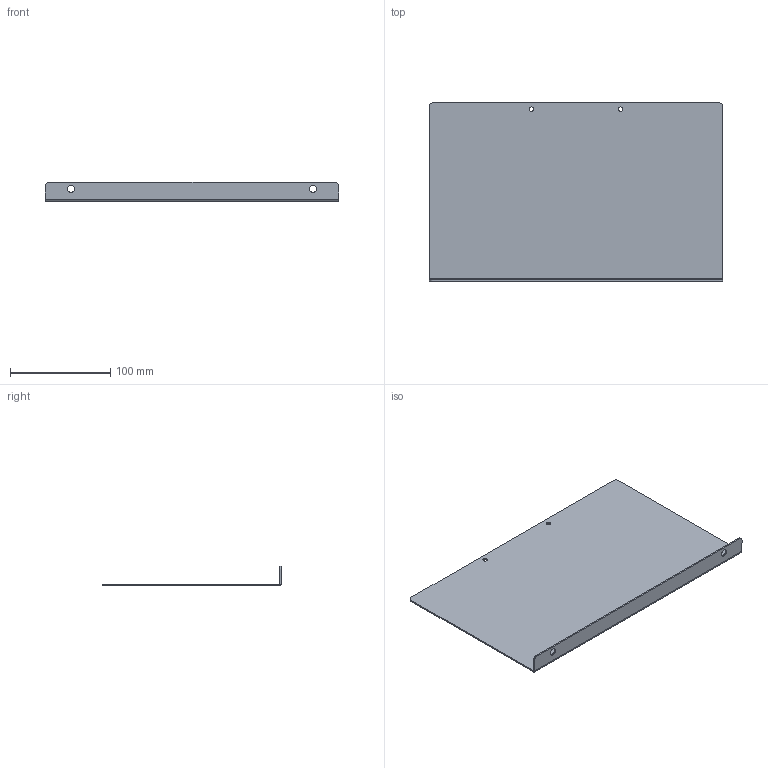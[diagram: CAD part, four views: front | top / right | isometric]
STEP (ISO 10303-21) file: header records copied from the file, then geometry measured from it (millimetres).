
FILE_DESCRIPTION((''),'2;1');
FILE_NAME('C:\Vault_Workspace\Inventor_Dwg\Inv-1\1100BA\WEBSITE\1100BA8012.stp','2015-02-02T15:13:04',('MichaelA'),(''),'Autodesk Inventor 2012','Autodesk Inventor 2012','');
FILE_SCHEMA(('AUTOMOTIVE_DESIGN { 1 0 10303 214 1 1 1 1 }'));
Length unit declared in the file: inch
Products named in the file (1): 1100BA-MASTER
Bounding box: 292.1 x 177.8 x 19.05 mm (x, y, z)
Volume: 79328.8 mm3; surface area: 115025.2 mm2
Topology: 1 solids, 1 shells, 22 faces, 52 edges, 32 vertices
Faces by surface type: plane 12, cylinder 10
Full cylindrical faces by diameter (mm): 4.496 x2, 7.137 x2
Entity records: 656 total; most frequent: DIRECTION 114, CARTESIAN_POINT 103, ORIENTED_EDGE 96, EDGE_CURVE 48, AXIS2_PLACEMENT_3D 43, EDGE_LOOP 34, VERTEX_POINT 32, VECTOR 28
